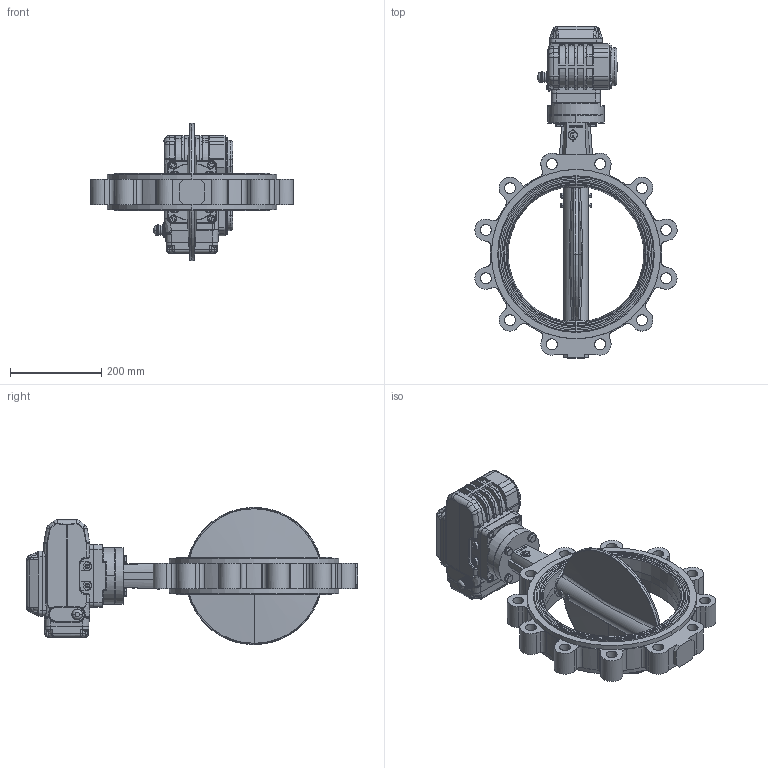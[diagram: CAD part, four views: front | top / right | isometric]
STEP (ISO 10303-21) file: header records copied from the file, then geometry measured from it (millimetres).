
FILE_DESCRIPTION (( 'STEP AP214' ), '1' );
FILE_NAME ('VPG464X-NX4XX0300.step', '2022-07-06T07:53:13', ( '' ), ( '' ), 'SwSTEP 2.0', 'SolidWorks 2020', '' );
FILE_SCHEMA (( 'AUTOMOTIVE_DESIGN' ));
Length unit declared in the file: millimetre
Products named in the file (1): VPG464X-NX4XX0300
Bounding box: 444.03 x 729 x 301.6 mm (x, y, z)
Surface area: 857529 mm2 (no closed solid volume)
Topology: 0 solids, 56 shells, 1174 faces, 5637 edges, 4422 vertices
Faces by surface type: cylinder 427, plane 401, bspline 233, cone 68, torus 45
Entity records: 104435 total; most frequent: CARTESIAN_POINT 50775, ORIENTED_EDGE 8201, DIRECTION 6896, EDGE_CURVE 5611, VERTEX_POINT 4422, LINE 2908, VECTOR 2908, AXIS2_PLACEMENT_3D 1994
